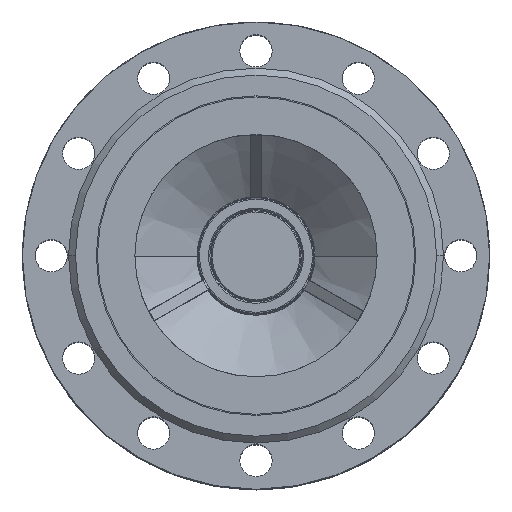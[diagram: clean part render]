
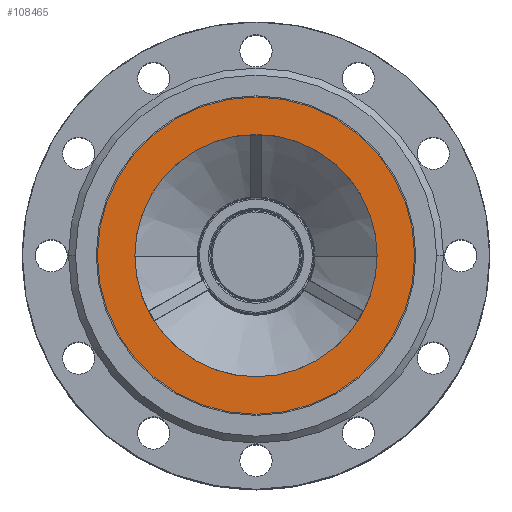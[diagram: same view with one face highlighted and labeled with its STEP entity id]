
A CAD part, top view. The second image highlights one B-rep face of the part: STEP entity #108465.
In plain terms, the highlighted planar face has unit normal (0, 0, 1).
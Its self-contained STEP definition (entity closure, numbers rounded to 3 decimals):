
#7596 = FACE_OUTER_BOUND ( 'NONE', #28910, .T. ) ;
#9537 = EDGE_CURVE ( 'NONE', #28104, #75858, #143146, .T. ) ;
#14731 = CARTESIAN_POINT ( 'NONE',  ( -105., 0., 185. ) ) ;
#21918 = CARTESIAN_POINT ( 'NONE',  ( 137.5, 0., 185. ) ) ;
#25835 = DIRECTION ( 'NONE',  ( 0., 0., -1. ) ) ;
#26446 = AXIS2_PLACEMENT_3D ( 'NONE', #181130, #68112, #200099 ) ;
#28104 = VERTEX_POINT ( 'NONE', #21918 ) ;
#28910 = EDGE_LOOP ( 'NONE', ( #111164, #224737 ) ) ;
#67405 = PLANE ( 'NONE',  #228714 ) ;
#68112 = DIRECTION ( 'NONE',  ( 0., 0., 1. ) ) ;
#74166 = EDGE_CURVE ( 'NONE', #81551, #145122, #232598, .T. ) ;
#75858 = VERTEX_POINT ( 'NONE', #136619 ) ;
#76391 = ORIENTED_EDGE ( 'NONE', *, *, #74166, .T. ) ;
#77152 = CIRCLE ( 'NONE', #80304, 137.5 ) ;
#79168 = EDGE_CURVE ( 'NONE', #145122, #81551, #229489, .T. ) ;
#80304 = AXIS2_PLACEMENT_3D ( 'NONE', #95444, #227407, #114380 ) ;
#81551 = VERTEX_POINT ( 'NONE', #14731 ) ;
#86382 = CARTESIAN_POINT ( 'NONE',  ( 0., 0., 185. ) ) ;
#95444 = CARTESIAN_POINT ( 'NONE',  ( 0., 0., 185. ) ) ;
#95519 = AXIS2_PLACEMENT_3D ( 'NONE', #138833, #25835, #157800 ) ;
#105342 = DIRECTION ( 'NONE',  ( 0., 0., 1. ) ) ;
#108465 = ADVANCED_FACE ( 'NONE', ( #202322, #7596 ), #67405, .T. ) ;
#111164 = ORIENTED_EDGE ( 'NONE', *, *, #9537, .T. ) ;
#111382 = CARTESIAN_POINT ( 'NONE',  ( 0., 0., 185. ) ) ;
#114380 = DIRECTION ( 'NONE',  ( 1., 0., 0. ) ) ;
#130372 = DIRECTION ( 'NONE',  ( 1., 0., 0. ) ) ;
#136619 = CARTESIAN_POINT ( 'NONE',  ( -137.5, 0., 185. ) ) ;
#138833 = CARTESIAN_POINT ( 'NONE',  ( 0., 0., 185. ) ) ;
#143146 = CIRCLE ( 'NONE', #26446, 137.5 ) ;
#145122 = VERTEX_POINT ( 'NONE', #183796 ) ;
#157800 = DIRECTION ( 'NONE',  ( 1., 0., 0. ) ) ;
#180024 = EDGE_CURVE ( 'NONE', #75858, #28104, #77152, .T. ) ;
#181130 = CARTESIAN_POINT ( 'NONE',  ( 0., 0., 185. ) ) ;
#183796 = CARTESIAN_POINT ( 'NONE',  ( 105., 0., 185. ) ) ;
#193503 = EDGE_LOOP ( 'NONE', ( #244195, #76391 ) ) ;
#200099 = DIRECTION ( 'NONE',  ( 1., 0., 0. ) ) ;
#202322 = FACE_BOUND ( 'NONE', #193503, .T. ) ;
#224737 = ORIENTED_EDGE ( 'NONE', *, *, #180024, .T. ) ;
#227407 = DIRECTION ( 'NONE',  ( 0., 0., 1. ) ) ;
#228714 = AXIS2_PLACEMENT_3D ( 'NONE', #86382, #105342, #237312 ) ;
#229489 = CIRCLE ( 'NONE', #95519, 105. ) ;
#232598 = CIRCLE ( 'NONE', #244033, 105. ) ;
#237312 = DIRECTION ( 'NONE',  ( 1., 0., 0. ) ) ;
#243363 = DIRECTION ( 'NONE',  ( 0., 0., -1. ) ) ;
#244033 = AXIS2_PLACEMENT_3D ( 'NONE', #111382, #243363, #130372 ) ;
#244195 = ORIENTED_EDGE ( 'NONE', *, *, #79168, .T. ) ;
